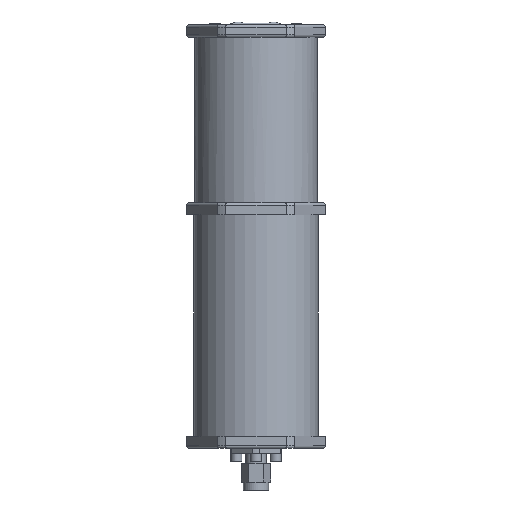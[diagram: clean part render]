
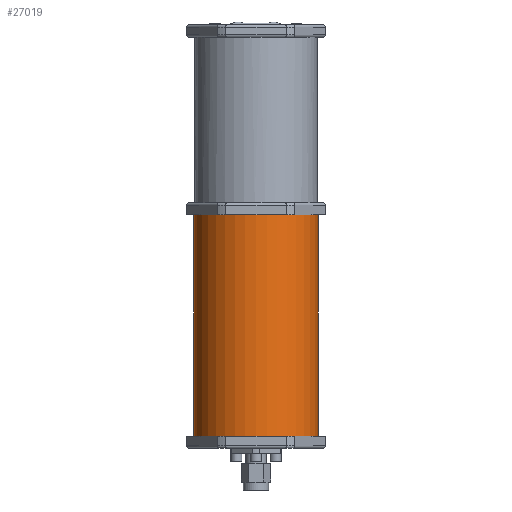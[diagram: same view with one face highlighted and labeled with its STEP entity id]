
A CAD part, front view. The second image highlights one B-rep face of the part: STEP entity #27019.
In plain terms, the highlighted cylindrical face has radius 19.431 mm (diameter 38.862 mm), a full revolution.
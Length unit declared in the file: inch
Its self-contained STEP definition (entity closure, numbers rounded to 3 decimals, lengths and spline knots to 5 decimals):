
#1933=CYLINDRICAL_SURFACE('',#28538,0.765);
#2524=FACE_OUTER_BOUND('',#3802,.T.);
#3802=EDGE_LOOP('',(#20680,#20681,#20682,#20683,#20684,#20685,#20686,#20687,
#20688,#20689,#20690,#20691,#20692,#20693,#20694,#20695));
#5045=CIRCLE('',#28506,0.765);
#5046=CIRCLE('',#28507,0.765);
#5047=CIRCLE('',#28509,0.765);
#5048=CIRCLE('',#28511,0.765);
#5049=CIRCLE('',#28513,0.765);
#5051=CIRCLE('',#28516,0.765);
#5053=CIRCLE('',#28519,0.765);
#5059=CIRCLE('',#28539,0.765);
#5060=CIRCLE('',#28540,0.765);
#5061=CIRCLE('',#28541,0.765);
#5062=CIRCLE('',#28542,0.765);
#5063=CIRCLE('',#28543,0.765);
#5064=CIRCLE('',#28544,0.765);
#5065=CIRCLE('',#28545,0.765);
#6209=LINE('',#39300,#9194);
#9194=VECTOR('',#31381,0.765);
#12103=VERTEX_POINT('',#38649);
#12137=VERTEX_POINT('',#38939);
#12140=VERTEX_POINT('',#38949);
#12166=VERTEX_POINT('',#39207);
#12170=VERTEX_POINT('',#39219);
#12173=VERTEX_POINT('',#39229);
#12175=VERTEX_POINT('',#39238);
#12176=VERTEX_POINT('',#39244);
#12177=VERTEX_POINT('',#39248);
#12180=VERTEX_POINT('',#39256);
#12188=VERTEX_POINT('',#39299);
#12189=VERTEX_POINT('',#39301);
#12190=VERTEX_POINT('',#39306);
#12191=VERTEX_POINT('',#39308);
#15901=EDGE_CURVE('',#12140,#12175,#5045,.T.);
#15902=EDGE_CURVE('',#12175,#12137,#5046,.T.);
#15903=EDGE_CURVE('',#12137,#12103,#5047,.T.);
#15904=EDGE_CURVE('',#12103,#12176,#5048,.T.);
#15906=EDGE_CURVE('',#12176,#12177,#5049,.T.);
#15910=EDGE_CURVE('',#12177,#12180,#5051,.T.);
#15914=EDGE_CURVE('',#12180,#12140,#5053,.T.);
#15930=EDGE_CURVE('',#12175,#12188,#6209,.T.);
#15931=EDGE_CURVE('',#12189,#12188,#5059,.T.);
#15932=EDGE_CURVE('',#12166,#12189,#5060,.T.);
#15933=EDGE_CURVE('',#12170,#12166,#5061,.T.);
#15934=EDGE_CURVE('',#12173,#12170,#5062,.T.);
#15935=EDGE_CURVE('',#12190,#12173,#5063,.T.);
#15936=EDGE_CURVE('',#12191,#12190,#5064,.T.);
#15937=EDGE_CURVE('',#12188,#12191,#5065,.T.);
#20680=ORIENTED_EDGE('',*,*,#15901,.F.);
#20681=ORIENTED_EDGE('',*,*,#15914,.F.);
#20682=ORIENTED_EDGE('',*,*,#15910,.F.);
#20683=ORIENTED_EDGE('',*,*,#15906,.F.);
#20684=ORIENTED_EDGE('',*,*,#15904,.F.);
#20685=ORIENTED_EDGE('',*,*,#15903,.F.);
#20686=ORIENTED_EDGE('',*,*,#15902,.F.);
#20687=ORIENTED_EDGE('',*,*,#15930,.T.);
#20688=ORIENTED_EDGE('',*,*,#15931,.F.);
#20689=ORIENTED_EDGE('',*,*,#15932,.F.);
#20690=ORIENTED_EDGE('',*,*,#15933,.F.);
#20691=ORIENTED_EDGE('',*,*,#15934,.F.);
#20692=ORIENTED_EDGE('',*,*,#15935,.F.);
#20693=ORIENTED_EDGE('',*,*,#15936,.F.);
#20694=ORIENTED_EDGE('',*,*,#15937,.F.);
#20695=ORIENTED_EDGE('',*,*,#15930,.F.);
#27019=ADVANCED_FACE('',(#2524),#1933,.T.);
#28506=AXIS2_PLACEMENT_3D('',#39239,#31300,#31301);
#28507=AXIS2_PLACEMENT_3D('',#39240,#31302,#31303);
#28509=AXIS2_PLACEMENT_3D('',#39242,#31306,#31307);
#28511=AXIS2_PLACEMENT_3D('',#39245,#31310,#31311);
#28513=AXIS2_PLACEMENT_3D('',#39249,#31315,#31316);
#28516=AXIS2_PLACEMENT_3D('',#39257,#31323,#31324);
#28519=AXIS2_PLACEMENT_3D('',#39264,#31331,#31332);
#28538=AXIS2_PLACEMENT_3D('',#39298,#31379,#31380);
#28539=AXIS2_PLACEMENT_3D('',#39302,#31382,#31383);
#28540=AXIS2_PLACEMENT_3D('',#39303,#31384,#31385);
#28541=AXIS2_PLACEMENT_3D('',#39304,#31386,#31387);
#28542=AXIS2_PLACEMENT_3D('',#39305,#31388,#31389);
#28543=AXIS2_PLACEMENT_3D('',#39307,#31390,#31391);
#28544=AXIS2_PLACEMENT_3D('',#39309,#31392,#31393);
#28545=AXIS2_PLACEMENT_3D('',#39310,#31394,#31395);
#31300=DIRECTION('center_axis',(0.,0.,1.));
#31301=DIRECTION('ref_axis',(-1.,0.,0.));
#31302=DIRECTION('center_axis',(0.,0.,1.));
#31303=DIRECTION('ref_axis',(-1.,0.,0.));
#31306=DIRECTION('center_axis',(0.,0.,1.));
#31307=DIRECTION('ref_axis',(-1.,0.,0.));
#31310=DIRECTION('center_axis',(0.,0.,1.));
#31311=DIRECTION('ref_axis',(-1.,0.,0.));
#31315=DIRECTION('center_axis',(0.,0.,1.));
#31316=DIRECTION('ref_axis',(-1.,0.,0.));
#31323=DIRECTION('center_axis',(0.,0.,1.));
#31324=DIRECTION('ref_axis',(-1.,0.,0.));
#31331=DIRECTION('center_axis',(0.,0.,1.));
#31332=DIRECTION('ref_axis',(-1.,0.,0.));
#31379=DIRECTION('center_axis',(0.,0.,1.));
#31380=DIRECTION('ref_axis',(-1.,0.,0.));
#31381=DIRECTION('',(0.,0.,-1.));
#31382=DIRECTION('center_axis',(0.,0.,-1.));
#31383=DIRECTION('ref_axis',(-1.,0.,0.));
#31384=DIRECTION('center_axis',(0.,0.,-1.));
#31385=DIRECTION('ref_axis',(-1.,0.,0.));
#31386=DIRECTION('center_axis',(0.,0.,-1.));
#31387=DIRECTION('ref_axis',(-1.,0.,0.));
#31388=DIRECTION('center_axis',(0.,0.,-1.));
#31389=DIRECTION('ref_axis',(-1.,0.,0.));
#31390=DIRECTION('center_axis',(0.,0.,-1.));
#31391=DIRECTION('ref_axis',(-1.,0.,0.));
#31392=DIRECTION('center_axis',(0.,0.,-1.));
#31393=DIRECTION('ref_axis',(-1.,0.,0.));
#31394=DIRECTION('center_axis',(0.,0.,-1.));
#31395=DIRECTION('ref_axis',(-1.,0.,0.));
#38649=CARTESIAN_POINT('',(0.,0.765,2.867));
#38939=CARTESIAN_POINT('',(0.66251,0.3825,2.867));
#38949=CARTESIAN_POINT('',(0.66251,-0.3825,2.867));
#39207=CARTESIAN_POINT('',(0.,0.765,0.15));
#39219=CARTESIAN_POINT('',(-0.66251,0.3825,0.15));
#39229=CARTESIAN_POINT('',(-0.66251,-0.3825,0.15));
#39238=CARTESIAN_POINT('',(0.765,0.,2.867));
#39239=CARTESIAN_POINT('Origin',(0.,0.,2.867));
#39240=CARTESIAN_POINT('Origin',(0.,0.,2.867));
#39242=CARTESIAN_POINT('Origin',(0.,0.,2.867));
#39244=CARTESIAN_POINT('',(-0.66251,0.3825,2.867));
#39245=CARTESIAN_POINT('Origin',(0.,0.,2.867));
#39248=CARTESIAN_POINT('',(-0.66251,-0.3825,2.867));
#39249=CARTESIAN_POINT('Origin',(0.,0.,2.867));
#39256=CARTESIAN_POINT('',(0.,-0.765,2.867));
#39257=CARTESIAN_POINT('Origin',(0.,0.,2.867));
#39264=CARTESIAN_POINT('Origin',(0.,0.,2.867));
#39298=CARTESIAN_POINT('Origin',(0.,0.,0.15));
#39299=CARTESIAN_POINT('',(0.765,0.,0.15));
#39300=CARTESIAN_POINT('',(0.765,0.,0.15));
#39301=CARTESIAN_POINT('',(0.66251,0.3825,0.15));
#39302=CARTESIAN_POINT('Origin',(0.,0.,0.15));
#39303=CARTESIAN_POINT('Origin',(0.,0.,0.15));
#39304=CARTESIAN_POINT('Origin',(0.,0.,0.15));
#39305=CARTESIAN_POINT('Origin',(0.,0.,0.15));
#39306=CARTESIAN_POINT('',(0.,-0.765,0.15));
#39307=CARTESIAN_POINT('Origin',(0.,0.,0.15));
#39308=CARTESIAN_POINT('',(0.66251,-0.3825,0.15));
#39309=CARTESIAN_POINT('Origin',(0.,0.,0.15));
#39310=CARTESIAN_POINT('Origin',(0.,0.,0.15));
